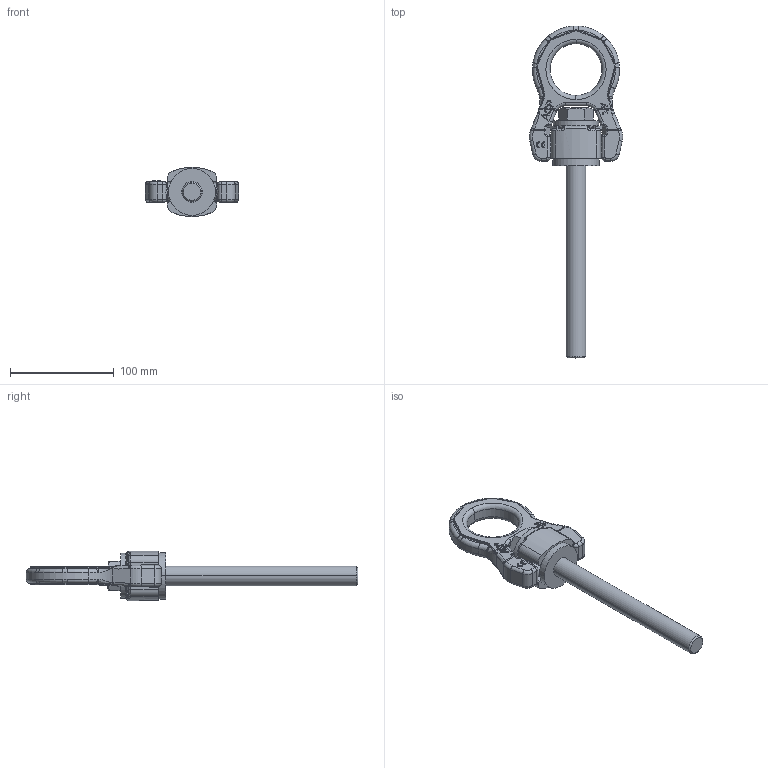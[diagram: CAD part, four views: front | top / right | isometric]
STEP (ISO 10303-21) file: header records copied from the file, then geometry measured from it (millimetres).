
FILE_DESCRIPTION((''),'2;1');
FILE_NAME('001-M35815-P-2_ASM','2019-02-27T',('anja.joas'),(''),'PRO/ENGINEER BY PARAMETRIC TECHNOLOGY CORPORATION, 2011490','PRO/ENGINEER BY PARAMETRIC TECHNOLOGY CORPORATION, 2011490','');
FILE_SCHEMA(('CONFIG_CONTROL_DESIGN'));
Length unit declared in the file: millimetre
Products named in the file (5): 001-M35814-P-20; 001-M35814-P-10; 001-M35814-P-50; 001-M35832-P-2; 001-M35815-P-2_ASM
Assembly tree (4 placements, depth 2):
  001-M35815-P-2_ASM
    001-M35814-P-20
    001-M35814-P-10
    001-M35814-P-50
    001-M35832-P-2
Bounding box: 89.77 x 319.77 x 47.37 mm (x, y, z)
Volume: 225212 mm3; surface area: 60115.1 mm2
Topology: 5 solids, 5 shells, 996 faces, 2581 edges, 1625 vertices
Faces by surface type: plane 591, cylinder 182, bspline 124, torus 90, cone 8, extrusion 1
Entity records: 35542 total; most frequent: CARTESIAN_POINT 11782, ORIENTED_EDGE 5162, DIRECTION 4604, EDGE_CURVE 2581, VECTOR 1712, LINE 1711, VERTEX_POINT 1625, AXIS2_PLACEMENT_3D 1446
